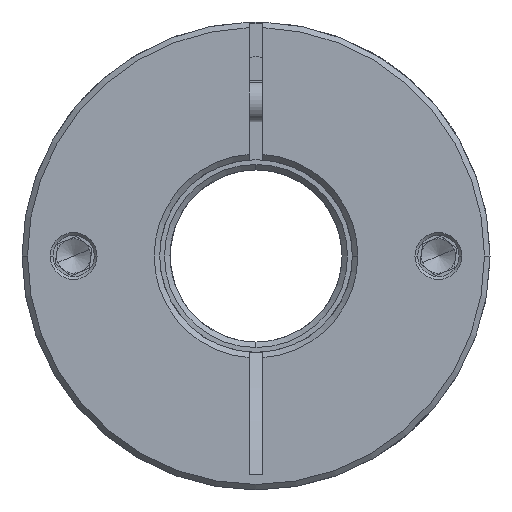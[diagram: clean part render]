
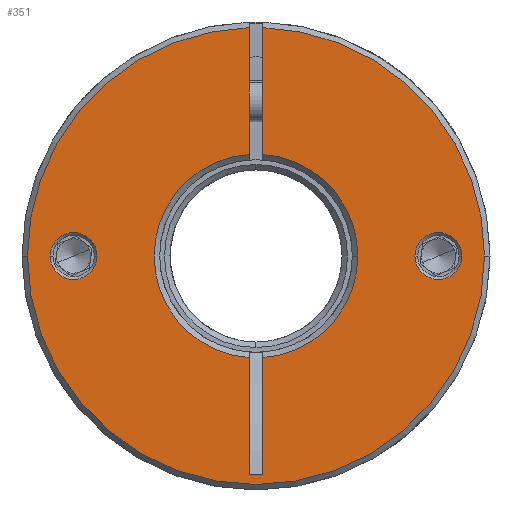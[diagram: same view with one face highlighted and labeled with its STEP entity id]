
A CAD part, front view. The second image highlights one B-rep face of the part: STEP entity #351.
In plain terms, the highlighted planar face has unit normal (0, -1, 0).
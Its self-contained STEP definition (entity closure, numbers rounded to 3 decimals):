
#149 = DIRECTION ( 'NONE',  ( 1., 0., 0. ) ) ;
#216 = CIRCLE ( 'NONE', #8788, 3.4 ) ;
#239 = ORIENTED_EDGE ( 'NONE', *, *, #5721, .T. ) ;
#318 = DIRECTION ( 'NONE',  ( 1., 0., 0. ) ) ;
#351 = ADVANCED_FACE ( 'NONE', ( #4355, #8209, #6900 ), #9288, .T. ) ;
#461 = VECTOR ( 'NONE', #6992, 1000. ) ;
#512 = AXIS2_PLACEMENT_3D ( 'NONE', #5383, #8581, #6422 ) ;
#557 = DIRECTION ( 'NONE',  ( 1., 0., 0. ) ) ;
#601 = EDGE_CURVE ( 'NONE', #3700, #9252, #6588, .T. ) ;
#756 = DIRECTION ( 'NONE',  ( 1., 0., 0. ) ) ;
#787 = CARTESIAN_POINT ( 'NONE',  ( -1.735, -47.045, 53.234 ) ) ;
#862 = DIRECTION ( 'NONE',  ( 0., 0., -1. ) ) ;
#889 = ORIENTED_EDGE ( 'NONE', *, *, #5037, .T. ) ;
#980 = AXIS2_PLACEMENT_3D ( 'NONE', #6599, #7765, #11907 ) ;
#1688 = CIRCLE ( 'NONE', #1935, 33.2 ) ;
#1697 = CARTESIAN_POINT ( 'NONE',  ( -1.735, -47.045, 82.766 ) ) ;
#1704 = LINE ( 'NONE', #2270, #2534 ) ;
#1745 = EDGE_CURVE ( 'NONE', #6907, #13011, #4129, .T. ) ;
#1804 = AXIS2_PLACEMENT_3D ( 'NONE', #3704, #7800, #557 ) ;
#1905 = LINE ( 'NONE', #10713, #4289 ) ;
#1935 = AXIS2_PLACEMENT_3D ( 'NONE', #3538, #4423, #7586 ) ;
#2025 = EDGE_CURVE ( 'NONE', #4654, #8032, #4282, .T. ) ;
#2072 = ORIENTED_EDGE ( 'NONE', *, *, #12312, .T. ) ;
#2100 = EDGE_LOOP ( 'NONE', ( #10566, #889 ) ) ;
#2115 = CARTESIAN_POINT ( 'NONE',  ( 12.065, -47.045, 68. ) ) ;
#2270 = CARTESIAN_POINT ( 'NONE',  ( -3.735, -47.045, 68. ) ) ;
#2304 = AXIS2_PLACEMENT_3D ( 'NONE', #8569, #8523, #10531 ) ;
#2424 = CARTESIAN_POINT ( 'NONE',  ( -2.735, -47.045, 68. ) ) ;
#2480 = EDGE_CURVE ( 'NONE', #10305, #9152, #6348, .T. ) ;
#2534 = VECTOR ( 'NONE', #6360, 1000. ) ;
#2696 = AXIS2_PLACEMENT_3D ( 'NONE', #3899, #8866, #756 ) ;
#2941 = EDGE_CURVE ( 'NONE', #5083, #8032, #5516, .T. ) ;
#3045 = ORIENTED_EDGE ( 'NONE', *, *, #10468, .T. ) ;
#3194 = CARTESIAN_POINT ( 'NONE',  ( -1.735, -47.045, 36.279 ) ) ;
#3215 = DIRECTION ( 'NONE',  ( 0., -1., 0. ) ) ;
#3538 = CARTESIAN_POINT ( 'NONE',  ( -2.735, -47.045, 68. ) ) ;
#3700 = VERTEX_POINT ( 'NONE', #9372 ) ;
#3704 = CARTESIAN_POINT ( 'NONE',  ( -2.735, -47.045, 68. ) ) ;
#3768 = DIRECTION ( 'NONE',  ( 1., 0., 0. ) ) ;
#3899 = CARTESIAN_POINT ( 'NONE',  ( -2.735, -47.045, 68. ) ) ;
#4129 = CIRCLE ( 'NONE', #11962, 33.2 ) ;
#4247 = DIRECTION ( 'NONE',  ( 0., -1., 0. ) ) ;
#4282 = LINE ( 'NONE', #8172, #6362 ) ;
#4289 = VECTOR ( 'NONE', #9721, 1000. ) ;
#4355 = FACE_BOUND ( 'NONE', #2100, .T. ) ;
#4361 = CARTESIAN_POINT ( 'NONE',  ( -29.235, -47.045, 68. ) ) ;
#4423 = DIRECTION ( 'NONE',  ( 0., -1., 0. ) ) ;
#4501 = AXIS2_PLACEMENT_3D ( 'NONE', #4361, #12709, #318 ) ;
#4554 = CARTESIAN_POINT ( 'NONE',  ( 30.465, -47.045, 68. ) ) ;
#4599 = EDGE_CURVE ( 'NONE', #5280, #9564, #11940, .T. ) ;
#4654 = VERTEX_POINT ( 'NONE', #8483 ) ;
#4803 = DIRECTION ( 'NONE',  ( 1., 0., 0. ) ) ;
#4938 = CIRCLE ( 'NONE', #12436, 33.2 ) ;
#5037 = EDGE_CURVE ( 'NONE', #7482, #11615, #216, .T. ) ;
#5083 = VERTEX_POINT ( 'NONE', #9083 ) ;
#5229 = ORIENTED_EDGE ( 'NONE', *, *, #2480, .T. ) ;
#5280 = VERTEX_POINT ( 'NONE', #3194 ) ;
#5296 = CARTESIAN_POINT ( 'NONE',  ( -2.735, -47.045, 68. ) ) ;
#5303 = ORIENTED_EDGE ( 'NONE', *, *, #7379, .T. ) ;
#5308 = CARTESIAN_POINT ( 'NONE',  ( -3.735, -47.045, 82.766 ) ) ;
#5374 = ORIENTED_EDGE ( 'NONE', *, *, #4599, .T. ) ;
#5383 = CARTESIAN_POINT ( 'NONE',  ( -2.735, -47.045, 68. ) ) ;
#5516 = CIRCLE ( 'NONE', #1804, 14.8 ) ;
#5599 = CARTESIAN_POINT ( 'NONE',  ( -35.935, -47.045, 68. ) ) ;
#5659 = CARTESIAN_POINT ( 'NONE',  ( -3.735, -47.045, 36.279 ) ) ;
#5713 = EDGE_CURVE ( 'NONE', #11615, #7482, #11589, .T. ) ;
#5721 = EDGE_CURVE ( 'NONE', #11389, #12088, #5960, .T. ) ;
#5771 = EDGE_LOOP ( 'NONE', ( #10624, #5303, #9886, #8703, #9672, #3045, #5229, #11881, #5374, #9839, #7852 ) ) ;
#5885 = CARTESIAN_POINT ( 'NONE',  ( -1.735, -47.045, 68. ) ) ;
#5960 = CIRCLE ( 'NONE', #4501, 3.4 ) ;
#6220 = CIRCLE ( 'NONE', #512, 14.8 ) ;
#6311 = CARTESIAN_POINT ( 'NONE',  ( -32.635, -47.045, 68. ) ) ;
#6348 = CIRCLE ( 'NONE', #2696, 14.8 ) ;
#6350 = DIRECTION ( 'NONE',  ( 1., 0., 0. ) ) ;
#6360 = DIRECTION ( 'NONE',  ( 0., 0., -1. ) ) ;
#6362 = VECTOR ( 'NONE', #862, 1000. ) ;
#6422 = DIRECTION ( 'NONE',  ( 1., 0., 0. ) ) ;
#6588 = LINE ( 'NONE', #5885, #461 ) ;
#6599 = CARTESIAN_POINT ( 'NONE',  ( -29.235, -47.045, 68. ) ) ;
#6696 = CARTESIAN_POINT ( 'NONE',  ( 23.765, -47.045, 68. ) ) ;
#6698 = CARTESIAN_POINT ( 'NONE',  ( -25.835, -47.045, 68. ) ) ;
#6857 = CARTESIAN_POINT ( 'NONE',  ( -2.735, -47.045, 68. ) ) ;
#6900 = FACE_OUTER_BOUND ( 'NONE', #5771, .T. ) ;
#6907 = VERTEX_POINT ( 'NONE', #5599 ) ;
#6992 = DIRECTION ( 'NONE',  ( 0., 0., -1. ) ) ;
#7379 = EDGE_CURVE ( 'NONE', #4654, #6907, #4938, .T. ) ;
#7482 = VERTEX_POINT ( 'NONE', #13308 ) ;
#7586 = DIRECTION ( 'NONE',  ( 1., 0., 0. ) ) ;
#7765 = DIRECTION ( 'NONE',  ( 0., 1., 0. ) ) ;
#7800 = DIRECTION ( 'NONE',  ( 0., 1., 0. ) ) ;
#7852 = ORIENTED_EDGE ( 'NONE', *, *, #2941, .T. ) ;
#8032 = VERTEX_POINT ( 'NONE', #5308 ) ;
#8172 = CARTESIAN_POINT ( 'NONE',  ( -3.735, -47.045, 68. ) ) ;
#8209 = FACE_BOUND ( 'NONE', #11133, .T. ) ;
#8483 = CARTESIAN_POINT ( 'NONE',  ( -3.735, -47.045, 101.185 ) ) ;
#8523 = DIRECTION ( 'NONE',  ( 0., 1., 0. ) ) ;
#8569 = CARTESIAN_POINT ( 'NONE',  ( 23.765, -47.045, 68. ) ) ;
#8581 = DIRECTION ( 'NONE',  ( 0., 1., 0. ) ) ;
#8703 = ORIENTED_EDGE ( 'NONE', *, *, #12214, .T. ) ;
#8788 = AXIS2_PLACEMENT_3D ( 'NONE', #6696, #9883, #3768 ) ;
#8866 = DIRECTION ( 'NONE',  ( 0., 1., 0. ) ) ;
#9083 = CARTESIAN_POINT ( 'NONE',  ( -3.735, -47.045, 53.234 ) ) ;
#9152 = VERTEX_POINT ( 'NONE', #787 ) ;
#9193 = VECTOR ( 'NONE', #12710, 1000. ) ;
#9252 = VERTEX_POINT ( 'NONE', #1697 ) ;
#9262 = AXIS2_PLACEMENT_3D ( 'NONE', #5296, #4247, #6350 ) ;
#9288 = PLANE ( 'NONE',  #9262 ) ;
#9372 = CARTESIAN_POINT ( 'NONE',  ( -1.735, -47.045, 101.185 ) ) ;
#9431 = CARTESIAN_POINT ( 'NONE',  ( 27.165, -47.045, 68. ) ) ;
#9542 = CARTESIAN_POINT ( 'NONE',  ( -3.735, -47.045, 36.279 ) ) ;
#9564 = VERTEX_POINT ( 'NONE', #5659 ) ;
#9672 = ORIENTED_EDGE ( 'NONE', *, *, #601, .T. ) ;
#9721 = DIRECTION ( 'NONE',  ( 0., 0., -1. ) ) ;
#9839 = ORIENTED_EDGE ( 'NONE', *, *, #11569, .F. ) ;
#9883 = DIRECTION ( 'NONE',  ( 0., 1., 0. ) ) ;
#9886 = ORIENTED_EDGE ( 'NONE', *, *, #1745, .T. ) ;
#9997 = CIRCLE ( 'NONE', #980, 3.4 ) ;
#10002 = DIRECTION ( 'NONE',  ( 0., -1., 0. ) ) ;
#10305 = VERTEX_POINT ( 'NONE', #2115 ) ;
#10468 = EDGE_CURVE ( 'NONE', #9252, #10305, #6220, .T. ) ;
#10531 = DIRECTION ( 'NONE',  ( 1., 0., 0. ) ) ;
#10566 = ORIENTED_EDGE ( 'NONE', *, *, #5713, .T. ) ;
#10624 = ORIENTED_EDGE ( 'NONE', *, *, #2025, .F. ) ;
#10640 = EDGE_CURVE ( 'NONE', #9152, #5280, #1905, .T. ) ;
#10713 = CARTESIAN_POINT ( 'NONE',  ( -1.735, -47.045, 68. ) ) ;
#11133 = EDGE_LOOP ( 'NONE', ( #239, #2072 ) ) ;
#11389 = VERTEX_POINT ( 'NONE', #6698 ) ;
#11569 = EDGE_CURVE ( 'NONE', #5083, #9564, #1704, .T. ) ;
#11589 = CIRCLE ( 'NONE', #2304, 3.4 ) ;
#11615 = VERTEX_POINT ( 'NONE', #9431 ) ;
#11881 = ORIENTED_EDGE ( 'NONE', *, *, #10640, .T. ) ;
#11907 = DIRECTION ( 'NONE',  ( 1., 0., 0. ) ) ;
#11940 = LINE ( 'NONE', #9542, #9193 ) ;
#11962 = AXIS2_PLACEMENT_3D ( 'NONE', #2424, #3215, #149 ) ;
#12088 = VERTEX_POINT ( 'NONE', #6311 ) ;
#12214 = EDGE_CURVE ( 'NONE', #13011, #3700, #1688, .T. ) ;
#12312 = EDGE_CURVE ( 'NONE', #12088, #11389, #9997, .T. ) ;
#12436 = AXIS2_PLACEMENT_3D ( 'NONE', #6857, #10002, #4803 ) ;
#12709 = DIRECTION ( 'NONE',  ( 0., 1., 0. ) ) ;
#12710 = DIRECTION ( 'NONE',  ( -1., 0., 0. ) ) ;
#13011 = VERTEX_POINT ( 'NONE', #4554 ) ;
#13308 = CARTESIAN_POINT ( 'NONE',  ( 20.365, -47.045, 68. ) ) ;
